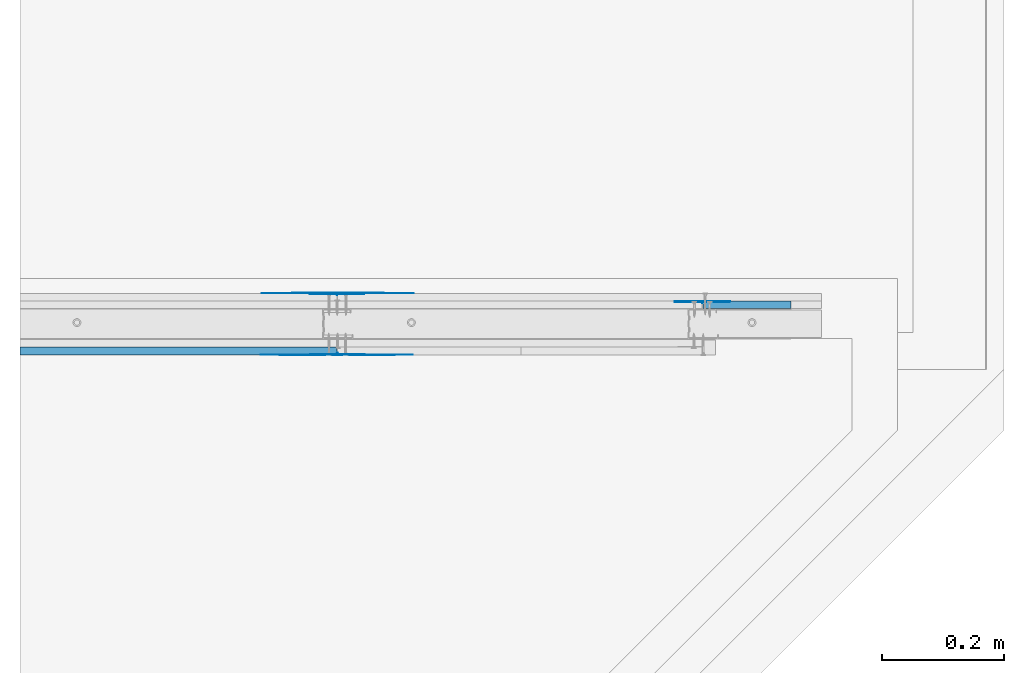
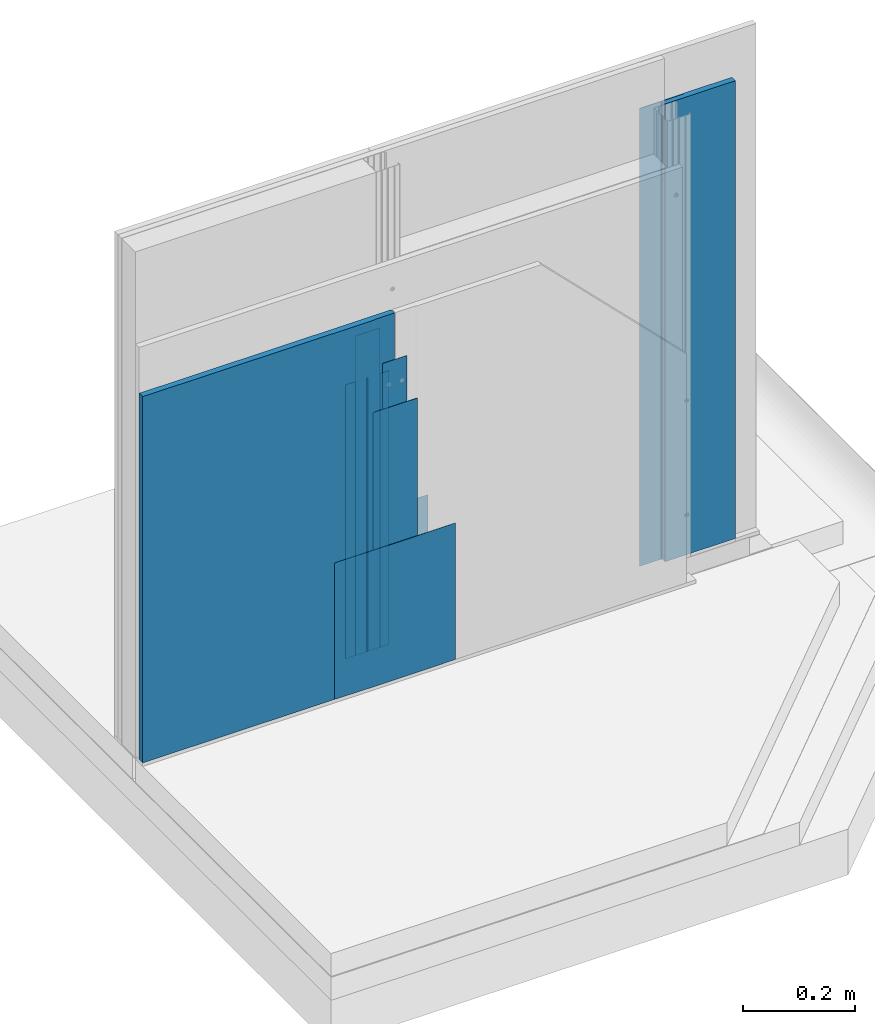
# One storey, part 3 of 36: 9 walls.
"""IFC2X3 building model written with IfcOpenShell, lengths in millimetres."""

from ifc_helpers import new_model, entity, si_unit, converted_unit, direction, frame, origin, origin_with_axes, place, context, project, spatial, faceted_brep, element, save


model = new_model("IFC2X3")

# Units and contexts
model_context = context("Model", 3, precision=1e-05, world=origin(), true_north=direction((0.0, 1.0, 0.0)))
ifc_project = project(units=[si_unit("LENGTHUNIT", "METRE", prefix="MILLI"), si_unit("AREAUNIT", "SQUARE_METRE"), si_unit("VOLUMEUNIT", "CUBIC_METRE"), converted_unit("PLANEANGLEUNIT", "DEGREE", entity("IfcPlaneAngleMeasure", 0.01745), si_unit("PLANEANGLEUNIT", "RADIAN"), dimensions=[0, 0, 0, 0, 0, 0, 0]), si_unit("SOLIDANGLEUNIT", "STERADIAN"), si_unit("MASSUNIT", "GRAM"), si_unit("TIMEUNIT", "SECOND"), si_unit("THERMODYNAMICTEMPERATUREUNIT", "DEGREE_CELSIUS"), si_unit("LUMINOUSINTENSITYUNIT", "LUMEN")], contexts=[model_context])

# Site, building, storey
site_placement = place(None, origin_with_axes())
site = spatial("IfcSite", under=ifc_project, at=site_placement, Name="Default Site", CompositionType="ELEMENT")
building_placement = place(site_placement, origin_with_axes())
building = spatial("IfcBuilding", under=site, at=building_placement, Name="Default Building", CompositionType="ELEMENT")
storey_placement = place(building_placement, origin_with_axes())
storey = spatial("IfcBuildingStorey", under=building, at=storey_placement, Name="Default Building Storey", CompositionType="ELEMENT", Elevation=0.0)

# Walls
wall_1_placement = place(storey_placement, frame((1909.970432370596, -1343.415798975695, 109.5484213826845), z_axis=(0.0, 0.0, 1.0), x_axis=(-1.0, -8.049116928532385e-16, 0.0)))
element("IfcWall", 1, at=wall_1_placement, inside=storey, Name="Dedykowana masa szpachlowa Rigips - wykończeniowa", context=model_context, shape_type="Brep", body=[
    faceted_brep([(-612.459216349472, -3390.556721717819, 2.449996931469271), (-862.459216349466, -3390.556721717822, 2.449996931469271), (-812.4612643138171, -3391.196716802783, 2.449996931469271), (-762.4602403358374, -3391.516720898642, 2.449996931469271), (-712.458192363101, -3391.516720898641, 2.449996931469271), (-662.4571683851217, -3391.19671680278, 2.449996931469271), (-762.4602403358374, -3391.516720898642, 300.8000000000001), (-812.4612643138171, -3391.196716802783, 300.8000000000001), (-862.459216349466, -3390.556721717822, 300.8000000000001), (-612.459216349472, -3390.556721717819, 300.8000000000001), (-662.4571683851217, -3391.19671680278, 300.8000000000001), (-712.458192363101, -3391.516720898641, 300.8000000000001)], [[[0, 1, 2, 3, 4, 5]], [[6, 7, 8, 9, 10, 11]], [[9, 0, 5, 10]], [[10, 5, 4, 11]], [[11, 4, 3, 6]], [[6, 3, 2, 7]], [[1, 8, 7, 2]], [[0, 9, 8, 1]]]),
])
wall_2_placement = place(storey_placement, frame((3984.303078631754, -1356.465798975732, 405.1766678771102), z_axis=(0.0, 0.0, 1.0), x_axis=(1.0, 0.0, 0.0)))
element("IfcWall", 2, at=wall_2_placement, inside=storey, Name="Dedykowana masa szpachlowa Rigips - konstrukcyjna", context=model_context, shape_type="Brep", body=[
    faceted_brep([(-737.4838396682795, 3387.669590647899, 706.8233321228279), (-737.4592163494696, 3387.356721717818, 706.8233321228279), (-737.4345930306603, 3387.669590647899, 706.8233321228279), (-737.3613293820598, 3387.974755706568, 706.8233321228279), (-737.2412293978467, 3388.264702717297, 706.8233321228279), (-737.0772503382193, 3388.532292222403, 706.8233321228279), (-736.8734299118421, 3388.770935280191, 706.8233321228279), (-736.6347868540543, 3388.974755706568, 706.8233321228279), (-736.3671973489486, 3389.138734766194, 706.8233321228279), (-736.0772503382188, 3389.258834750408, 706.8233321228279), (-735.7720852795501, 3389.332098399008, 706.8233321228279), (-735.4592163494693, 3389.356721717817, 706.8233321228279), (-692.4592163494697, 3389.356721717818, 706.8233321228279), (-691.4592163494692, 3390.556721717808, 706.8233321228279), (-782.4592163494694, 3390.556721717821, 706.8233321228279), (-782.4592163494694, 3389.356721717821, 706.8233321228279), (-739.4592163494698, 3389.356721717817, 706.8233321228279), (-739.146347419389, 3389.332098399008, 706.8233321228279), (-738.8411823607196, 3389.258834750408, 706.8233321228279), (-738.5512353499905, 3389.138734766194, 706.8233321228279), (-738.2836458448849, 3388.974755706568, 706.8233321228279), (-738.045002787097, 3388.770935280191, 706.8233321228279), (-737.8411823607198, 3388.532292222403, 706.8233321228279), (-737.6772033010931, 3388.264702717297, 706.8233321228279), (-737.5571033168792, 3387.974755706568, 706.8233321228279), (-691.4592163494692, 3390.556721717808, -293.178249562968), (-692.4592163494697, 3389.356721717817, -293.178249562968), (-735.4592163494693, 3389.356721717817, -293.178249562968), (-735.7720852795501, 3389.332098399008, -293.178249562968), (-736.0772503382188, 3389.258834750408, -293.178249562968), (-736.3671973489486, 3389.138734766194, -293.178249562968), (-736.6347868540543, 3388.974755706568, -293.178249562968), (-736.8734299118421, 3388.77093528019, -293.178249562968), (-737.0772503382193, 3388.532292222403, -293.178249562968), (-737.2412293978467, 3388.264702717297, -293.178249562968), (-737.3613293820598, 3387.974755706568, -293.178249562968), (-737.4345930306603, 3387.669590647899, -293.178249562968), (-737.4592163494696, 3387.356721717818, -293.178249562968), (-737.4838396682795, 3387.669590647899, -293.178249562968), (-737.5571033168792, 3387.974755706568, -293.178249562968), (-737.6772033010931, 3388.264702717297, -293.178249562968), (-737.8411823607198, 3388.532292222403, -293.178249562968), (-738.045002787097, 3388.77093528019, -293.178249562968), (-738.2836458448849, 3388.974755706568, -293.178249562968), (-738.5512353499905, 3389.138734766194, -293.178249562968), (-738.8411823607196, 3389.258834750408, -293.178249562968), (-739.146347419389, 3389.332098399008, -293.178249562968), (-739.4592163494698, 3389.356721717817, -293.178249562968), (-782.4592163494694, 3389.356721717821, -293.178249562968), (-782.4592163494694, 3390.556721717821, -293.178249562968)], [[[0, 1, 2, 3, 4, 5, 6, 7, 8, 9, 10, 11, 12, 13, 14, 15, 16, 17, 18, 19, 20, 21, 22, 23, 24]], [[25, 26, 27, 28, 29, 30, 31, 32, 33, 34, 35, 36, 37, 38, 39, 40, 41, 42, 43, 44, 45, 46, 47, 48, 49]], [[26, 12, 11, 27]], [[10, 9, 29, 28]], [[28, 27, 11, 10]], [[8, 30, 29, 9]], [[7, 6, 32, 31]], [[31, 30, 8, 7]], [[5, 4, 34, 33]], [[33, 32, 6, 5]], [[3, 35, 34, 4]], [[2, 1, 37, 36]], [[36, 35, 3, 2]], [[0, 24, 39, 38]], [[38, 37, 1, 0]], [[23, 40, 39, 24]], [[22, 21, 42, 41]], [[41, 40, 23, 22]], [[20, 19, 44, 43]], [[43, 42, 21, 20]], [[18, 45, 44, 19]], [[17, 16, 47, 46]], [[46, 45, 18, 17]], [[47, 16, 15, 48]], [[48, 15, 14, 49]], [[49, 14, 13, 25]], [[25, 13, 12, 26]]]),
])
wall_3_placement = place(storey_placement, frame((3247.843862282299, 2022.140922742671, 1389.777728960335), z_axis=(0.0, 0.0, 1.0), x_axis=(1.0, 0.0, 0.0)))
element("IfcWall", 3, at=wall_3_placement, inside=storey, Name="Płyta gipsowo-kartonowa RIGIPS PRO (4PRO™)", context=model_context, shape_type="Brep", body=[
    faceted_brep([(145.1967559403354, 12.49999999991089, -277.7777289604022), (145.1967559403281, -9.059988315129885e-11, -277.7777289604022), (145.1967559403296, -9.023892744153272e-11, -1277.779310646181), (145.1967559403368, 12.49999999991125, -1277.779310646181), (0.0, 0.0, -277.7777289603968), (44.99999999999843, 12.50000000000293, -277.7777289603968), (40.99999999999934, 11.50000000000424, -277.7777289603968), (0.9999999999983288, 11.5000000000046, -277.7777289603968), (0.7411809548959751, 11.46592582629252, -277.7777289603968), (0.4999999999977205, 11.3660254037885, -277.7777289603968), (0.2928932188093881, 11.20710678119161, -277.7777289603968), (0.1339745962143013, 11.00000000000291, -277.7777289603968), (0.03407417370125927, 10.7588190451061, -277.7777289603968), (-2.887645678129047e-12, 10.50000000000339, -277.7777289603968), (44.99999999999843, 12.50000000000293, -1277.779310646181), (40.99999999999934, 11.50000000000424, -1277.779310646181), (0.9999999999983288, 11.5000000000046, -1277.779310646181), (0.7411809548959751, 11.46592582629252, -1277.779310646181), (0.4999999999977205, 11.3660254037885, -1277.779310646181), (0.2928932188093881, 11.20710678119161, -1277.779310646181), (0.1339745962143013, 11.00000000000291, -1277.779310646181), (0.03407417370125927, 10.7588190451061, -1277.779310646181), (-2.887645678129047e-12, 10.50000000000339, -1277.779310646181), (0.0, 0.0, -1277.779310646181)], [[[0, 1, 2, 3]], [[4, 1, 0, 5, 6, 7, 8, 9, 10, 11, 12, 13]], [[0, 3, 14, 5]], [[6, 5, 14, 15]], [[7, 6, 15, 16]], [[8, 7, 16, 17]], [[9, 8, 17, 18]], [[10, 9, 18, 19]], [[11, 10, 19, 20]], [[12, 11, 20, 21]], [[13, 12, 21, 22]], [[4, 13, 22, 23]], [[23, 2, 1, 4]], [[14, 3, 2, 23, 22, 21, 20, 19, 18, 17, 16, 15]]]),
])
wall_4_placement = place(storey_placement, frame((1909.970432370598, -1343.415798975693, 109.5484213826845), z_axis=(0.0, 0.0, 1.0), x_axis=(-1.0, -8.049116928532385e-16, 0.0)))
element("IfcWall", 4, at=wall_4_placement, inside=storey, Name="Taśma spoinowa RIGIPS", context=model_context, shape_type="Brep", body=[
    faceted_brep([(-712.4592163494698, -3389.356721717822, 700.7999999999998), (-712.4592163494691, -3389.856721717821, 700.7999999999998), (-762.4592163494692, -3389.856721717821, 700.7999999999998), (-762.45921634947, -3389.35672171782, 700.7999999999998), (-712.4592163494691, -3389.856721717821, 2.449996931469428), (-712.4592163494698, -3389.35672171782, 2.449996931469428), (-762.45921634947, -3389.35672171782, 2.449996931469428), (-762.4592163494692, -3389.856721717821, 2.449996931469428)], [[[0, 1, 2, 3]], [[4, 5, 6, 7]], [[5, 0, 3, 6]], [[6, 3, 2, 7]], [[7, 2, 1, 4]], [[4, 1, 0, 5]]]),
])
wall_5_placement = place(storey_placement, frame((3383.888865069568, -1343.415798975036, 109.5484213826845), z_axis=(0.0, 0.0, 1.0), x_axis=(1.0, 0.0, 0.0)))
element("IfcWall", 5, at=wall_5_placement, inside=storey, Name="Dedykowana masa szpachlowa Rigips - konstrukcyjna", context=model_context, shape_type="Brep", body=[
    faceted_brep([(-737.4838396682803, 3387.6695906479, 600.7999999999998), (-737.4592163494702, 3387.356721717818, 600.7999999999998), (-737.434593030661, 3387.6695906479, 600.7999999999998), (-737.3613293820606, 3387.974755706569, 600.7999999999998), (-737.2412293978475, 3388.264702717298, 600.7999999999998), (-737.07725033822, 3388.532292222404, 600.7999999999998), (-736.8734299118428, 3388.770935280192, 600.7999999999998), (-736.6347868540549, 3388.974755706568, 600.7999999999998), (-736.3671973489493, 3389.138734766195, 600.7999999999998), (-736.0772503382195, 3389.258834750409, 600.7999999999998), (-735.7720852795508, 3389.332098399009, 600.7999999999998), (-735.45921634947, 3389.356721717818, 600.7999999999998), (-692.4592163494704, 3389.356721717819, 600.7999999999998), (-691.4592163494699, 3390.556721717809, 600.7999999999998), (-782.4592163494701, 3390.556721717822, 600.7999999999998), (-782.4592163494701, 3389.356721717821, 600.7999999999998), (-739.4592163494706, 3389.356721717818, 600.7999999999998), (-739.1463474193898, 3389.332098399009, 600.7999999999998), (-738.8411823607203, 3389.258834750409, 600.7999999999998), (-738.5512353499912, 3389.138734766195, 600.7999999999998), (-738.2836458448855, 3388.974755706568, 600.7999999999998), (-738.0450027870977, 3388.770935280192, 600.7999999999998), (-737.8411823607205, 3388.532292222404, 600.7999999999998), (-737.6772033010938, 3388.264702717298, 600.7999999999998), (-737.55710331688, 3387.974755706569, 600.7999999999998), (-691.4592163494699, 3390.556721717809, 2.449996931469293), (-692.4592163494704, 3389.356721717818, 2.449996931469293), (-735.45921634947, 3389.356721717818, 2.449996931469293), (-735.7720852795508, 3389.332098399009, 2.449996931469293), (-736.0772503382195, 3389.258834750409, 2.449996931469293), (-736.3671973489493, 3389.138734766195, 2.449996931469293), (-736.6347868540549, 3388.974755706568, 2.449996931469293), (-736.8734299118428, 3388.770935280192, 2.449996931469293), (-737.07725033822, 3388.532292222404, 2.449996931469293), (-737.2412293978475, 3388.264702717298, 2.449996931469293), (-737.3613293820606, 3387.974755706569, 2.449996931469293), (-737.434593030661, 3387.6695906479, 2.449996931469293), (-737.4592163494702, 3387.356721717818, 2.449996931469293), (-737.4838396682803, 3387.6695906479, 2.449996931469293), (-737.55710331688, 3387.974755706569, 2.449996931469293), (-737.6772033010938, 3388.264702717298, 2.449996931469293), (-737.8411823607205, 3388.532292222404, 2.449996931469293), (-738.0450027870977, 3388.770935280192, 2.449996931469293), (-738.2836458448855, 3388.974755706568, 2.449996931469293), (-738.5512353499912, 3389.138734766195, 2.449996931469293), (-738.8411823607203, 3389.258834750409, 2.449996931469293), (-739.1463474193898, 3389.332098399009, 2.449996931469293), (-739.4592163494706, 3389.356721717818, 2.449996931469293), (-782.4592163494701, 3389.356721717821, 2.449996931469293), (-782.4592163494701, 3390.556721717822, 2.449996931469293)], [[[0, 1, 2, 3, 4, 5, 6, 7, 8, 9, 10, 11, 12, 13, 14, 15, 16, 17, 18, 19, 20, 21, 22, 23, 24]], [[25, 26, 27, 28, 29, 30, 31, 32, 33, 34, 35, 36, 37, 38, 39, 40, 41, 42, 43, 44, 45, 46, 47, 48, 49]], [[26, 12, 11, 27]], [[10, 9, 29, 28]], [[28, 27, 11, 10]], [[8, 30, 29, 9]], [[7, 6, 32, 31]], [[31, 30, 8, 7]], [[5, 4, 34, 33]], [[33, 32, 6, 5]], [[3, 35, 34, 4]], [[2, 1, 37, 36]], [[36, 35, 3, 2]], [[0, 24, 39, 38]], [[38, 37, 1, 0]], [[23, 40, 39, 24]], [[22, 21, 42, 41]], [[41, 40, 23, 22]], [[20, 19, 44, 43]], [[43, 42, 21, 20]], [[18, 45, 44, 19]], [[17, 16, 47, 46]], [[46, 45, 18, 17]], [[47, 16, 15, 48]], [[48, 15, 14, 49]], [[49, 14, 13, 25]], [[25, 13, 12, 26]]]),
])
wall_6_placement = place(storey_placement, frame((3383.701646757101, 5336.736799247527, 109.5484213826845), z_axis=(0.0, 0.0, 1.0), x_axis=(1.0, 0.0, 0.0)))
element("IfcWall", 6, at=wall_6_placement, inside=storey, Name="Dedykowana masa szpachlowa Rigips - wykończeniowa", context=model_context, shape_type="Brep", body=[
    faceted_brep([(-612.459216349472, -3390.556721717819, 2.449996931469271), (-862.459216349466, -3390.556721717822, 2.449996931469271), (-812.4612643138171, -3391.196716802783, 2.449996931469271), (-762.4602403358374, -3391.516720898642, 2.449996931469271), (-712.458192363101, -3391.516720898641, 2.449996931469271), (-662.4571683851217, -3391.19671680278, 2.449996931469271), (-762.4602403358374, -3391.516720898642, 300.8000000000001), (-812.4612643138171, -3391.196716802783, 300.8000000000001), (-862.459216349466, -3390.556721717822, 300.8000000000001), (-612.459216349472, -3390.556721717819, 300.8000000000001), (-662.4571683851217, -3391.19671680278, 300.8000000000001), (-712.458192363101, -3391.516720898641, 300.8000000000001)], [[[0, 1, 2, 3, 4, 5]], [[6, 7, 8, 9, 10, 11]], [[9, 0, 5, 10]], [[10, 5, 4, 11]], [[11, 4, 3, 6]], [[6, 3, 2, 7]], [[1, 8, 7, 2]], [[0, 9, 8, 1]]]),
])
wall_7_placement = place(storey_placement, frame((1909.78321405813, 5336.736799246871, 109.5484213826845), z_axis=(0.0, 0.0, 1.0), x_axis=(-1.0, 0.0, 0.0)))
element("IfcWall", 7, at=wall_7_placement, inside=storey, Name="Dedykowana masa szpachlowa Rigips - konstrukcyjna", context=model_context, shape_type="Brep", body=[
    faceted_brep([(-737.4838396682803, 3387.6695906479, 600.7999999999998), (-737.4592163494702, 3387.356721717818, 600.7999999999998), (-737.434593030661, 3387.6695906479, 600.7999999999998), (-737.3613293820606, 3387.974755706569, 600.7999999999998), (-737.2412293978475, 3388.264702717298, 600.7999999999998), (-737.07725033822, 3388.532292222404, 600.7999999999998), (-736.8734299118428, 3388.770935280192, 600.7999999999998), (-736.6347868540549, 3388.974755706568, 600.7999999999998), (-736.3671973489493, 3389.138734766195, 600.7999999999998), (-736.0772503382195, 3389.258834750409, 600.7999999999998), (-735.7720852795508, 3389.332098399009, 600.7999999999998), (-735.45921634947, 3389.356721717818, 600.7999999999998), (-692.4592163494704, 3389.356721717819, 600.7999999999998), (-691.4592163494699, 3390.556721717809, 600.7999999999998), (-782.4592163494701, 3390.556721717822, 600.7999999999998), (-782.4592163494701, 3389.356721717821, 600.7999999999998), (-739.4592163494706, 3389.356721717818, 600.7999999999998), (-739.1463474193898, 3389.332098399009, 600.7999999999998), (-738.8411823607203, 3389.258834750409, 600.7999999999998), (-738.5512353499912, 3389.138734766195, 600.7999999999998), (-738.2836458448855, 3388.974755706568, 600.7999999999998), (-738.0450027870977, 3388.770935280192, 600.7999999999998), (-737.8411823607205, 3388.532292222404, 600.7999999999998), (-737.6772033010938, 3388.264702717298, 600.7999999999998), (-737.55710331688, 3387.974755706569, 600.7999999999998), (-691.4592163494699, 3390.556721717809, 2.449996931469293), (-692.4592163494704, 3389.356721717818, 2.449996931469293), (-735.45921634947, 3389.356721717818, 2.449996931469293), (-735.7720852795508, 3389.332098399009, 2.449996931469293), (-736.0772503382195, 3389.258834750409, 2.449996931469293), (-736.3671973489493, 3389.138734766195, 2.449996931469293), (-736.6347868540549, 3388.974755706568, 2.449996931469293), (-736.8734299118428, 3388.770935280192, 2.449996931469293), (-737.07725033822, 3388.532292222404, 2.449996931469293), (-737.2412293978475, 3388.264702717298, 2.449996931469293), (-737.3613293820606, 3387.974755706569, 2.449996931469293), (-737.434593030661, 3387.6695906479, 2.449996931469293), (-737.4592163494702, 3387.356721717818, 2.449996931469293), (-737.4838396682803, 3387.6695906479, 2.449996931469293), (-737.55710331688, 3387.974755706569, 2.449996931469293), (-737.6772033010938, 3388.264702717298, 2.449996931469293), (-737.8411823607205, 3388.532292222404, 2.449996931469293), (-738.0450027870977, 3388.770935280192, 2.449996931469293), (-738.2836458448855, 3388.974755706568, 2.449996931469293), (-738.5512353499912, 3389.138734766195, 2.449996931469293), (-738.8411823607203, 3389.258834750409, 2.449996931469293), (-739.1463474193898, 3389.332098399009, 2.449996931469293), (-739.4592163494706, 3389.356721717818, 2.449996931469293), (-782.4592163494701, 3389.356721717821, 2.449996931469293), (-782.4592163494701, 3390.556721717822, 2.449996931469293)], [[[0, 1, 2, 3, 4, 5, 6, 7, 8, 9, 10, 11, 12, 13, 14, 15, 16, 17, 18, 19, 20, 21, 22, 23, 24]], [[25, 26, 27, 28, 29, 30, 31, 32, 33, 34, 35, 36, 37, 38, 39, 40, 41, 42, 43, 44, 45, 46, 47, 48, 49]], [[26, 12, 11, 27]], [[10, 9, 29, 28]], [[28, 27, 11, 10]], [[8, 30, 29, 9]], [[7, 6, 32, 31]], [[31, 30, 8, 7]], [[5, 4, 34, 33]], [[33, 32, 6, 5]], [[3, 35, 34, 4]], [[2, 1, 37, 36]], [[36, 35, 3, 2]], [[0, 24, 39, 38]], [[38, 37, 1, 0]], [[23, 40, 39, 24]], [[22, 21, 42, 41]], [[41, 40, 23, 22]], [[20, 19, 44, 43]], [[43, 42, 21, 20]], [[18, 45, 44, 19]], [[17, 16, 47, 46]], [[46, 45, 18, 17]], [[47, 16, 15, 48]], [[48, 15, 14, 49]], [[49, 14, 13, 25]], [[25, 13, 12, 26]]]),
])
wall_8_placement = place(storey_placement, frame((2646.242430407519, 1958.680077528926, 1161.999999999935), z_axis=(0.0, 0.0, 1.0), x_axis=(-1.0, 6.389333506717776e-13, 0.0)))
element("IfcWall", 8, at=wall_8_placement, inside=storey, Name="Płyta gipsowo-kartonowa RIGIPS PRO (4PRO™)", context=model_context, shape_type="Brep", body=[
    faceted_brep([(521.2172969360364, 12.49999999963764, -249.9999999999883), (521.2172969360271, -3.346059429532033e-10, -249.9999999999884), (521.217296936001, -3.313573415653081e-10, -1050.001581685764), (521.2172969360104, 12.49999999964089, -1050.001581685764), (44.99999999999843, 12.50000000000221, -249.9999999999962), (40.99999999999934, 11.50000000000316, -249.9999999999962), (0.9999999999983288, 11.50000000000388, -249.9999999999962), (0.7411809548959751, 11.46592582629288, -249.9999999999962), (0.4999999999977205, 11.3660254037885, -249.9999999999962), (0.29289321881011, 11.20710678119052, -249.9999999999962), (0.1339745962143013, 11.00000000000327, -249.9999999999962), (0.03407417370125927, 10.7588190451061, -249.9999999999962), (-1.443822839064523e-12, 10.50000000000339, -249.9999999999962), (0.0, 0.0, -249.9999999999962), (44.99999999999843, 12.50000000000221, -1050.001581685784), (40.99999999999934, 11.50000000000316, -1050.001581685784), (0.9999999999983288, 11.50000000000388, -1050.001581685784), (0.7411809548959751, 11.46592582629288, -1050.001581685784), (0.4999999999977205, 11.3660254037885, -1050.001581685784), (0.29289321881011, 11.20710678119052, -1050.001581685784), (0.1339745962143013, 11.00000000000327, -1050.001581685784), (0.03407417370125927, 10.7588190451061, -1050.001581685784), (-1.443822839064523e-12, 10.50000000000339, -1050.001581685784), (0.0, 0.0, -1050.001581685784)], [[[0, 1, 2, 3]], [[0, 4, 5, 6, 7, 8, 9, 10, 11, 12, 13, 1]], [[3, 14, 4, 0]], [[5, 4, 14, 15]], [[6, 5, 15, 16]], [[7, 6, 16, 17]], [[8, 7, 17, 18]], [[9, 8, 18, 19]], [[10, 9, 19, 20]], [[11, 10, 20, 21]], [[12, 11, 21, 22]], [[13, 12, 22, 23]], [[2, 1, 13, 23]], [[14, 3, 2, 23, 22, 21, 20, 19, 18, 17, 16, 15]]]),
])
wall_9_placement = place(storey_placement, frame((3383.701646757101, 5336.736799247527, 109.5484213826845), z_axis=(0.0, 0.0, 1.0), x_axis=(1.0, 0.0, 0.0)))
element("IfcWall", 9, at=wall_9_placement, inside=storey, Name="Taśma spoinowa RIGIPS", context=model_context, shape_type="Brep", body=[
    faceted_brep([(-712.4592163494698, -3389.356721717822, 700.7999999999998), (-712.4592163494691, -3389.856721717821, 700.7999999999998), (-762.4592163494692, -3389.856721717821, 700.7999999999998), (-762.45921634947, -3389.35672171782, 700.7999999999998), (-712.4592163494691, -3389.856721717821, 2.449996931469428), (-712.4592163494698, -3389.35672171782, 2.449996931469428), (-762.45921634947, -3389.35672171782, 2.449996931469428), (-762.4592163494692, -3389.856721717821, 2.449996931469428)], [[[0, 1, 2, 3]], [[4, 5, 6, 7]], [[5, 0, 3, 6]], [[6, 3, 2, 7]], [[7, 2, 1, 4]], [[4, 1, 0, 5]]]),
])

save(model, "model.ifc")
